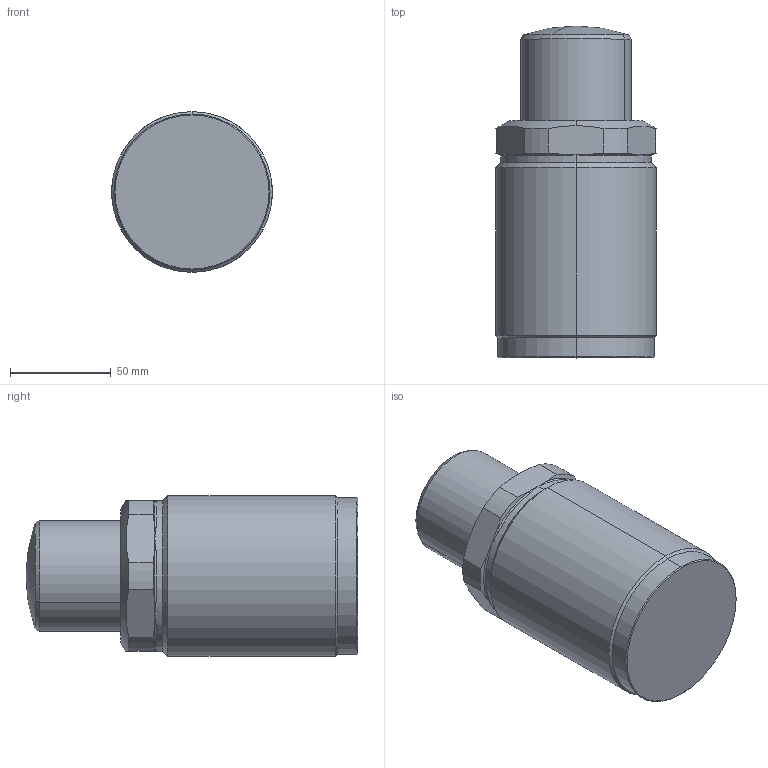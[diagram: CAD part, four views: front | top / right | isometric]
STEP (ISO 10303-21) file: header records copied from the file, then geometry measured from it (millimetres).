
FILE_DESCRIPTION((' '),'2;1');
FILE_NAME( 'CMC60-40R.x_t.stp', '2024-08-27T13:58:42', (' '), ('--- Datakit www.datakit.com---'), ' Datakit CrossCadWare V2024.1 Dec 21 2023', 'Mastercam 2025', ' ');
FILE_SCHEMA(('AUTOMOTIVE_DESIGN { 1 0 10303 214 1 1 1 1 }'));
Length unit declared in the file: millimetre
Products named in the file (1): CMC60-40R
Bounding box: 80 x 165 x 80 mm (x, y, z)
Volume: 590266.3 mm3; surface area: 57712.8 mm2
Topology: 2 solids, 2 shells, 62 faces, 155 edges, 84 vertices
Faces by surface type: cylinder 16, cone 16, bspline 12, plane 10, torus 6, sphere 2
Entity records: 3649 total; most frequent: CARTESIAN_POINT 2288, ORIENTED_EDGE 282, DIRECTION 264, EDGE_CURVE 141, AXIS2_PLACEMENT_3D 116, VERTEX_POINT 84, CIRCLE 65, EDGE_LOOP 63
